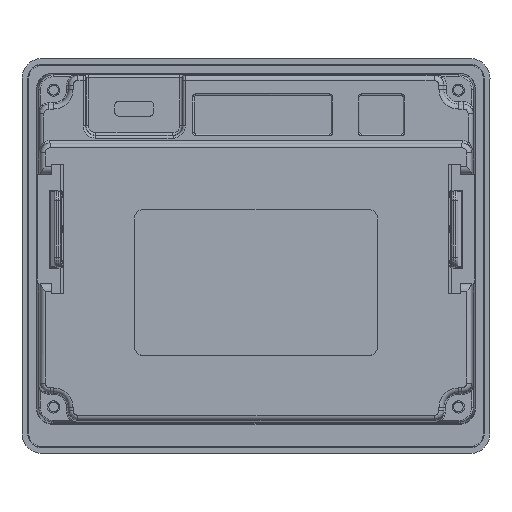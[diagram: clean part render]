
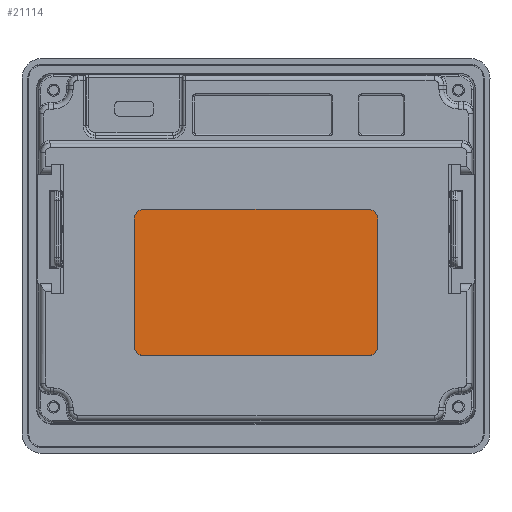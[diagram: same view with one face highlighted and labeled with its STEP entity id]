
A CAD part, top view. The second image highlights one B-rep face of the part: STEP entity #21114.
In plain terms, the highlighted planar face has unit normal (0, 0, 1).
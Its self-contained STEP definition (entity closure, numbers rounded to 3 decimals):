
#5933=DIRECTION('',(1.,0.,0.));
#5934=VECTOR('',#5933,46.005);
#5935=CARTESIAN_POINT('',(-23.003,-20.5,
28.7));
#5936=LINE('',#5935,#5934);
#5945=CARTESIAN_POINT('',(23.003,9.5,28.7));
#5946=CARTESIAN_POINT('',(23.181,9.5,28.7));
#5947=CARTESIAN_POINT('',(23.523,9.455,28.7));
#5948=CARTESIAN_POINT('',(24.015,9.251,28.7));
#5949=CARTESIAN_POINT('',(24.289,9.041,28.7));
#5950=CARTESIAN_POINT('',(24.415,8.915,28.7));
#5952=CARTESIAN_POINT('',(24.415,8.915,28.7));
#5953=CARTESIAN_POINT('',(24.541,8.789,28.7));
#5954=CARTESIAN_POINT('',(24.751,8.515,28.7));
#5955=CARTESIAN_POINT('',(24.955,8.023,28.7));
#5956=CARTESIAN_POINT('',(25.,7.681,28.7));
#5957=CARTESIAN_POINT('',(25.,7.503,28.7));
#5959=CARTESIAN_POINT('',(25.,-18.503,28.7));
#5960=CARTESIAN_POINT('',(25.,-18.681,28.7));
#5961=CARTESIAN_POINT('',(24.955,-19.023,28.7));
#5962=CARTESIAN_POINT('',(24.751,-19.515,28.7));
#5963=CARTESIAN_POINT('',(24.541,-19.789,28.7));
#5964=CARTESIAN_POINT('',(24.415,-19.915,28.7));
#5966=CARTESIAN_POINT('',(24.415,-19.915,28.7));
#5967=CARTESIAN_POINT('',(24.289,-20.041,28.7));
#5968=CARTESIAN_POINT('',(24.015,-20.251,28.7));
#5969=CARTESIAN_POINT('',(23.523,-20.455,28.7));
#5970=CARTESIAN_POINT('',(23.181,-20.5,28.7));
#5971=CARTESIAN_POINT('',(23.003,-20.5,28.7));
#5973=CARTESIAN_POINT('',(-23.003,-20.5,
28.7));
#5974=CARTESIAN_POINT('',(-23.181,-20.5,
28.7));
#5975=CARTESIAN_POINT('',(-23.523,-20.455,
28.7));
#5976=CARTESIAN_POINT('',(-24.015,-20.251,
28.7));
#5977=CARTESIAN_POINT('',(-24.289,-20.041,
28.7));
#5978=CARTESIAN_POINT('',(-24.415,-19.915,
28.7));
#5980=CARTESIAN_POINT('',(-24.415,-19.915,
28.7));
#5981=CARTESIAN_POINT('',(-24.541,-19.789,
28.7));
#5982=CARTESIAN_POINT('',(-24.751,-19.515,
28.7));
#5983=CARTESIAN_POINT('',(-24.955,-19.023,
28.7));
#5984=CARTESIAN_POINT('',(-25.,-18.681,
28.7));
#5985=CARTESIAN_POINT('',(-25.,-18.503,
28.7));
#5987=DIRECTION('',(0.,1.,0.));
#5988=VECTOR('',#5987,26.005);
#5989=CARTESIAN_POINT('',(-25.,-18.503,
28.7));
#5990=LINE('',#5989,#5988);
#5991=CARTESIAN_POINT('',(-25.,7.503,28.7));
#5992=CARTESIAN_POINT('',(-25.,7.681,28.7));
#5993=CARTESIAN_POINT('',(-24.955,8.023,28.7));
#5994=CARTESIAN_POINT('',(-24.751,8.515,28.7));
#5995=CARTESIAN_POINT('',(-24.541,8.789,28.7));
#5996=CARTESIAN_POINT('',(-24.415,8.915,28.7));
#5998=CARTESIAN_POINT('',(-24.415,8.915,28.7));
#5999=CARTESIAN_POINT('',(-24.289,9.041,28.7));
#6000=CARTESIAN_POINT('',(-24.015,9.251,28.7));
#6001=CARTESIAN_POINT('',(-23.523,9.455,28.7));
#6002=CARTESIAN_POINT('',(-23.181,9.5,28.7));
#6003=CARTESIAN_POINT('',(-23.003,9.5,28.7));
#6013=DIRECTION('',(-1.,0.,0.));
#6014=VECTOR('',#6013,46.005);
#6015=CARTESIAN_POINT('',(23.003,9.5,28.7));
#6016=LINE('',#6015,#6014);
#6029=DIRECTION('',(0.,1.,0.));
#6030=VECTOR('',#6029,26.005);
#6031=CARTESIAN_POINT('',(25.,-18.503,28.7));
#6032=LINE('',#6031,#6030);
#11214=CARTESIAN_POINT('',(-23.003,-20.5,
28.7));
#11215=CARTESIAN_POINT('',(23.003,-20.5,
28.7));
#11216=VERTEX_POINT('',#11214);
#11217=VERTEX_POINT('',#11215);
#11218=CARTESIAN_POINT('',(23.003,9.5,28.7));
#11219=CARTESIAN_POINT('',(-23.003,9.5,
28.7));
#11220=VERTEX_POINT('',#11218);
#11221=VERTEX_POINT('',#11219);
#11222=VERTEX_POINT('',#5950);
#11223=VERTEX_POINT('',#5957);
#11224=CARTESIAN_POINT('',(25.,-18.503,
28.7));
#11225=VERTEX_POINT('',#11224);
#11226=VERTEX_POINT('',#5964);
#11227=VERTEX_POINT('',#5978);
#11228=VERTEX_POINT('',#5985);
#11229=CARTESIAN_POINT('',(-25.,7.503,
28.7));
#11230=VERTEX_POINT('',#11229);
#11231=VERTEX_POINT('',#5996);
#21084=CARTESIAN_POINT('',(0.,-5.5,28.7));
#21085=DIRECTION('',(0.,0.,1.));
#21086=DIRECTION('',(1.,0.,0.));
#21087=AXIS2_PLACEMENT_3D('',#21084,#21085,#21086);
#21088=PLANE('',#21087);
#21090=ORIENTED_EDGE('',*,*,#21089,.F.);
#21092=ORIENTED_EDGE('',*,*,#21091,.T.);
#21094=ORIENTED_EDGE('',*,*,#21093,.T.);
#21096=ORIENTED_EDGE('',*,*,#21095,.F.);
#21098=ORIENTED_EDGE('',*,*,#21097,.T.);
#21100=ORIENTED_EDGE('',*,*,#21099,.T.);
#21101=ORIENTED_EDGE('',*,*,#21074,.F.);
#21103=ORIENTED_EDGE('',*,*,#21102,.T.);
#21105=ORIENTED_EDGE('',*,*,#21104,.T.);
#21107=ORIENTED_EDGE('',*,*,#21106,.T.);
#21109=ORIENTED_EDGE('',*,*,#21108,.T.);
#21111=ORIENTED_EDGE('',*,*,#21110,.T.);
#21112=EDGE_LOOP('',(#21090,#21092,#21094,#21096,#21098,#21100,#21101,#21103,
#21105,#21107,#21109,#21111));
#21113=FACE_OUTER_BOUND('',#21112,.F.);
#21114=ADVANCED_FACE('',(#21113),#21088,.T.);
#5951=B_SPLINE_CURVE_WITH_KNOTS('',3,(#5945,#5946,#5947,#5948,#5949,#5950),
.UNSPECIFIED.,.F.,.F.,(4,1,1,4),(0.,0.333,0.667,1.),
.UNSPECIFIED.);
#5958=B_SPLINE_CURVE_WITH_KNOTS('',3,(#5952,#5953,#5954,#5955,#5956,#5957),
.UNSPECIFIED.,.F.,.F.,(4,1,1,4),(0.,0.333,0.667,1.),
.UNSPECIFIED.);
#5965=B_SPLINE_CURVE_WITH_KNOTS('',3,(#5959,#5960,#5961,#5962,#5963,#5964),
.UNSPECIFIED.,.F.,.F.,(4,1,1,4),(0.,0.333,0.667,1.),
.UNSPECIFIED.);
#5972=B_SPLINE_CURVE_WITH_KNOTS('',3,(#5966,#5967,#5968,#5969,#5970,#5971),
.UNSPECIFIED.,.F.,.F.,(4,1,1,4),(0.,0.333,0.667,1.),
.UNSPECIFIED.);
#5979=B_SPLINE_CURVE_WITH_KNOTS('',3,(#5973,#5974,#5975,#5976,#5977,#5978),
.UNSPECIFIED.,.F.,.F.,(4,1,1,4),(0.,0.333,0.667,1.),
.UNSPECIFIED.);
#5986=B_SPLINE_CURVE_WITH_KNOTS('',3,(#5980,#5981,#5982,#5983,#5984,#5985),
.UNSPECIFIED.,.F.,.F.,(4,1,1,4),(0.,0.333,0.667,1.),
.UNSPECIFIED.);
#5997=B_SPLINE_CURVE_WITH_KNOTS('',3,(#5991,#5992,#5993,#5994,#5995,#5996),
.UNSPECIFIED.,.F.,.F.,(4,1,1,4),(0.,0.333,0.667,1.),
.UNSPECIFIED.);
#6004=B_SPLINE_CURVE_WITH_KNOTS('',3,(#5998,#5999,#6000,#6001,#6002,#6003),
.UNSPECIFIED.,.F.,.F.,(4,1,1,4),(0.,0.333,0.667,1.),
.UNSPECIFIED.);
#21074=EDGE_CURVE('',#11216,#11217,#5936,.T.);
#21089=EDGE_CURVE('',#11220,#11221,#6016,.T.);
#21091=EDGE_CURVE('',#11220,#11222,#5951,.T.);
#21093=EDGE_CURVE('',#11222,#11223,#5958,.T.);
#21095=EDGE_CURVE('',#11225,#11223,#6032,.T.);
#21097=EDGE_CURVE('',#11225,#11226,#5965,.T.);
#21099=EDGE_CURVE('',#11226,#11217,#5972,.T.);
#21102=EDGE_CURVE('',#11216,#11227,#5979,.T.);
#21104=EDGE_CURVE('',#11227,#11228,#5986,.T.);
#21106=EDGE_CURVE('',#11228,#11230,#5990,.T.);
#21108=EDGE_CURVE('',#11230,#11231,#5997,.T.);
#21110=EDGE_CURVE('',#11231,#11221,#6004,.T.);
